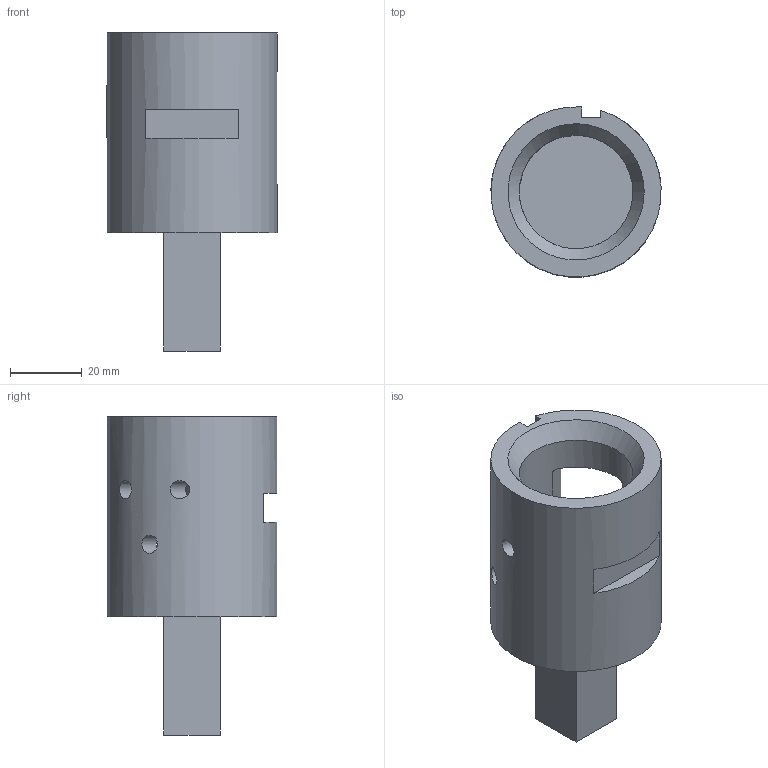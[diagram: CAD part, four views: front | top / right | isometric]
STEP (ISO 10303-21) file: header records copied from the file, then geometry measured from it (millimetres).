
FILE_DESCRIPTION((''),'2;1');
FILE_NAME('Q:\Vance\Day 7\Model Prep Solid.stp','2022-06-01T09:13:57',(''),(''),'STEP Write','Mastercam 2022 ... CNC Software, Inc.','');
FILE_SCHEMA(('AUTOMOTIVE_DESIGN'));
Length unit declared in the file: inch
Products named in the file (1): None
Bounding box: 47.56 x 47.5 x 88.9 mm (x, y, z)
Volume: 68653.3 mm3; surface area: 18361 mm2
Topology: 1 solids, 1 shells, 28 faces, 75 edges, 51 vertices
Faces by surface type: plane 18, cylinder 9, bspline 1
Full cylindrical faces by diameter (mm): 5.08 x3, 31.75 x1
Entity records: 1190 total; most frequent: CARTESIAN_POINT 498, ORIENTED_EDGE 126, DIRECTION 114, EDGE_CURVE 63, VERTEX_POINT 45, EDGE_LOOP 44, AXIS2_PLACEMENT_3D 38, VECTOR 38
